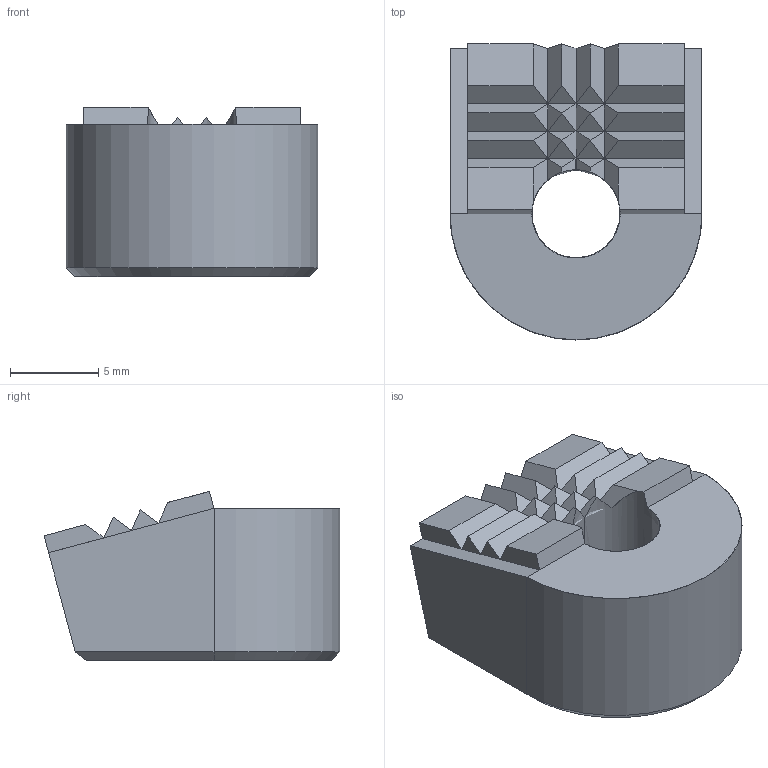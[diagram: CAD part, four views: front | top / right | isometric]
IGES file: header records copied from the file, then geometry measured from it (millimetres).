
Start section: SolidWorks IGES FILE using analytic representation for surfaces
Global section: file name: C:\WIX2\Positioning\3550\3550W003.igs; native system: SolidWorks 2003 by SolidWorks Corporation; preprocessor: Version 5.3; author: Joan; date: 030722.164436; units: millimetre
Bounding box: 14.28 x 16.77 x 9.59 mm (x, y, z)
Surface area: 979.7 mm2 (no closed solid volume)
Topology: 0 solids, 0 shells, 76 faces, 404 edges, 404 vertices
Faces by surface type: bspline 72, revolution 4
